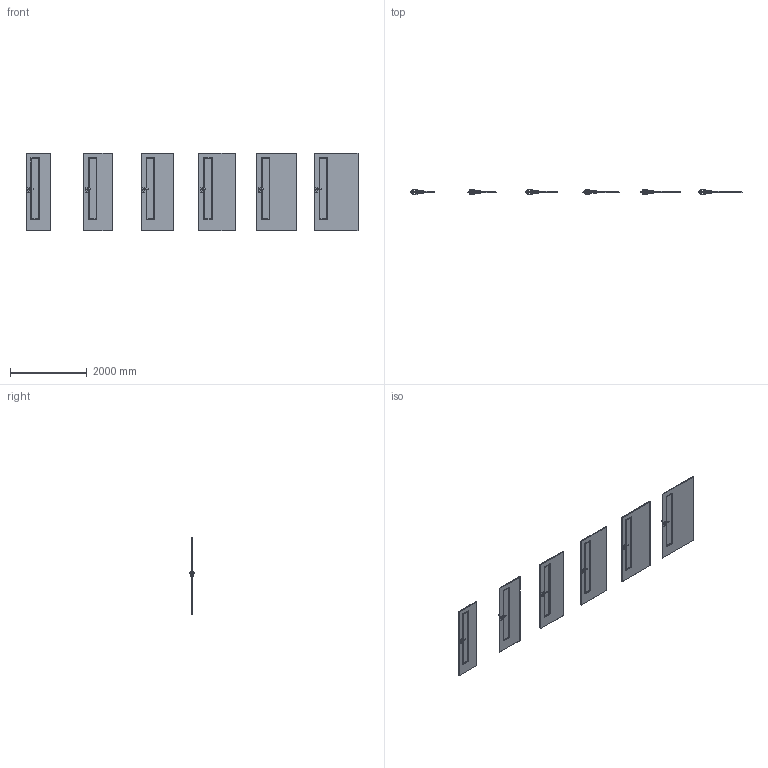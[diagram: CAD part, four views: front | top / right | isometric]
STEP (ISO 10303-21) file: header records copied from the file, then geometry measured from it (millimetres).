
FILE_DESCRIPTION(/* description */ (''),/* implementation_level */ '2;1');
FILE_NAME(/* name */ '050208_A_2-Skrzydło FIT model I_ polska norma _PN__ przylgowe..stp',/* time_stamp */ '2025-01-07T12:00:22+01:00',/* author */ (''),/* organization */ (''),/* preprocessor_version */ 'ST-DEVELOPER v16',/* originating_system */ 'SIEMENS PLM Software NX 11.0',/* authorisation */ '');
FILE_SCHEMA (('AUTOMOTIVE_DESIGN { 1 0 10303 214 3 1 1 1 }'));
Products named in the file (1): bkni16DCB670pnxt
Bounding box: 8644 x 153.27 x 2030 mm (x, y, z)
Volume: 360332119.4 mm3; surface area: 25121883.1 mm2
Topology: 30 solids, 36 shells, 1824 faces, 4428 edges, 2496 vertices
Faces by surface type: plane 936, bspline 432, cylinder 288, sphere 168
Entity records: 79083 total; most frequent: CARTESIAN_POINT 40009, ORIENTED_EDGE 8520, DIRECTION 7106, EDGE_CURVE 4260, VERTEX_POINT 2496, LINE 2400, VECTOR 2400, AXIS2_PLACEMENT_3D 2353
